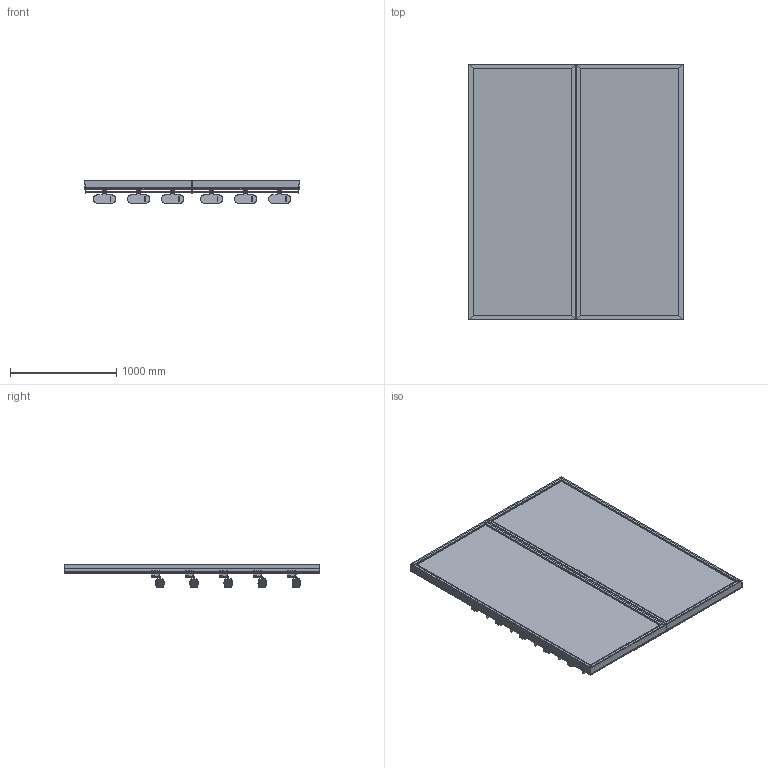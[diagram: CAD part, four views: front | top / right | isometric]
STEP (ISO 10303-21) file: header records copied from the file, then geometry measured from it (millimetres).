
FILE_DESCRIPTION (( 'STEP AP203' ), '1' );
FILE_NAME ('2m Double Angled Footwear Retail Wall.STEP', '2026-03-31T11:16:31', ( '' ), ( '' ), 'SwSTEP 2.0', 'SolidWorks 2025', '' );
FILE_SCHEMA (( 'CONFIG_CONTROL_DESIGN' ));
Length unit declared in the file: millimetre
Products named in the file (8): 0001-31-103.STEP; Wide Angled Shoe Merchandising Display_Assem13; 373-01-GA01; 0001-31-GA10 - 1005W Slotted upbright; 2m Double Angled Footwear Retail Wall; 0001-31-SA26 - 1005W Rear support Bar.STEP; 0001-31-SA26 - 1005W Rear support Bar_Assem8; 0001-31-131.STEP
Assembly tree (27 placements, depth 5):
  2m Double Angled Footwear Retail Wall
    Wide Angled Shoe Merchandising Display_Assem13  x2
      0001-31-GA10 - 1005W Slotted upbright
      0001-31-SA26 - 1005W Rear support Bar_Assem8
        0001-31-SA26 - 1005W Rear support Bar.STEP
          0001-31-103.STEP  x2
          0001-31-131.STEP
      373-01-GA01
Bounding box: 2011.48 x 2400 x 212.4 mm (x, y, z)
Volume: 19173304.1 mm3; surface area: 26812969.7 mm2
Topology: 72 solids, 72 shells, 3042 faces, 9012 edges, 5848 vertices
Faces by surface type: plane 2406, cylinder 576, bspline 60
Entity records: 27983 total; most frequent: CARTESIAN_POINT 5212, ORIENTED_EDGE 4906, DIRECTION 3841, EDGE_CURVE 2453, VECTOR 2315, LINE 2315, VERTEX_POINT 1630, EDGE_LOOP 859
